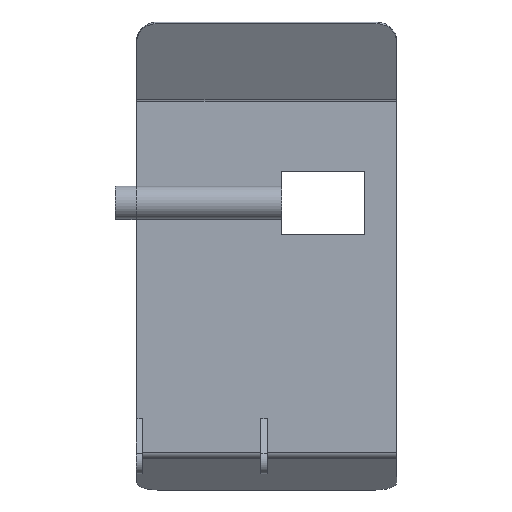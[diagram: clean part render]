
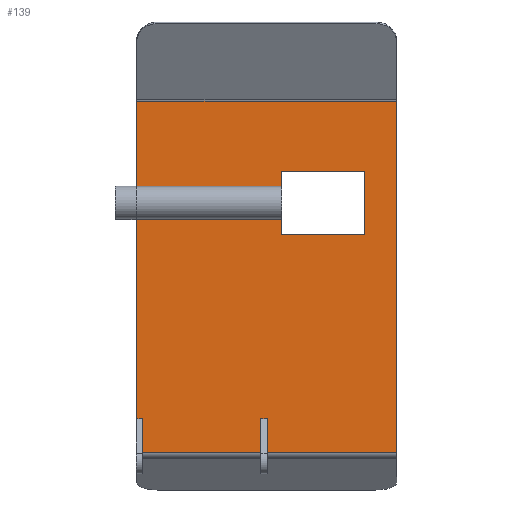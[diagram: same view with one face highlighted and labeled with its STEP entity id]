
A CAD part, top view. The second image highlights one B-rep face of the part: STEP entity #139.
In plain terms, the highlighted planar face has unit normal (0, 0, 1).
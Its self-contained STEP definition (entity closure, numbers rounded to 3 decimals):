
#139 = ADVANCED_FACE( '', ( #288, #289 ), #290, .F. );
#288 = FACE_BOUND( '', #447, .T. );
#289 = FACE_OUTER_BOUND( '', #448, .T. );
#290 = PLANE( '', #449 );
#447 = EDGE_LOOP( '', ( #777, #778, #779, #780 ) );
#448 = EDGE_LOOP( '', ( #781, #782, #783, #784, #785, #786, #787, #788, #789, #790 ) );
#449 = AXIS2_PLACEMENT_3D( '', #791, #792, #793 );
#777 = ORIENTED_EDGE( '', *, *, #1023, .F. );
#778 = ORIENTED_EDGE( '', *, *, #1024, .F. );
#779 = ORIENTED_EDGE( '', *, *, #1000, .F. );
#780 = ORIENTED_EDGE( '', *, *, #976, .F. );
#781 = ORIENTED_EDGE( '', *, *, #972, .F. );
#782 = ORIENTED_EDGE( '', *, *, #1025, .T. );
#783 = ORIENTED_EDGE( '', *, *, #937, .F. );
#784 = ORIENTED_EDGE( '', *, *, #963, .T. );
#785 = ORIENTED_EDGE( '', *, *, #932, .F. );
#786 = ORIENTED_EDGE( '', *, *, #912, .F. );
#787 = ORIENTED_EDGE( '', *, *, #1026, .F. );
#788 = ORIENTED_EDGE( '', *, *, #983, .T. );
#789 = ORIENTED_EDGE( '', *, *, #987, .T. );
#790 = ORIENTED_EDGE( '', *, *, #1006, .T. );
#791 = CARTESIAN_POINT( '', ( 0.296, 0., 0. ) );
#792 = DIRECTION( '', ( 0., 0., -1. ) );
#793 = DIRECTION( '', ( 1., 0., 0. ) );
#912 = EDGE_CURVE( '', #1084, #1086, #1087, .T. );
#932 = EDGE_CURVE( '', #1086, #1117, #1121, .T. );
#937 = EDGE_CURVE( '', #1128, #1123, #1130, .T. );
#963 = EDGE_CURVE( '', #1128, #1117, #1169, .T. );
#972 = EDGE_CURVE( '', #1180, #1182, #1183, .T. );
#976 = EDGE_CURVE( '', #1186, #1189, #1190, .T. );
#983 = EDGE_CURVE( '', #1200, #1198, #1201, .T. );
#987 = EDGE_CURVE( '', #1198, #1205, #1206, .T. );
#1000 = EDGE_CURVE( '', #1189, #1222, #1223, .T. );
#1006 = EDGE_CURVE( '', #1205, #1182, #1231, .T. );
#1023 = EDGE_CURVE( '', #1252, #1186, #1253, .T. );
#1024 = EDGE_CURVE( '', #1222, #1252, #1254, .T. );
#1025 = EDGE_CURVE( '', #1180, #1123, #1255, .T. );
#1026 = EDGE_CURVE( '', #1200, #1084, #1256, .T. );
#1084 = VERTEX_POINT( '', #1325 );
#1086 = VERTEX_POINT( '', #1327 );
#1087 = LINE( '', #1328, #1329 );
#1117 = VERTEX_POINT( '', #1368 );
#1121 = LINE( '', #1374, #1375 );
#1123 = VERTEX_POINT( '', #1377 );
#1128 = VERTEX_POINT( '', #1383 );
#1130 = LINE( '', #1385, #1386 );
#1169 = LINE( '', #1439, #1440 );
#1180 = VERTEX_POINT( '', #1456 );
#1182 = VERTEX_POINT( '', #1459 );
#1183 = LINE( '', #1460, #1461 );
#1186 = VERTEX_POINT( '', #1465 );
#1189 = VERTEX_POINT( '', #1469 );
#1190 = LINE( '', #1470, #1471 );
#1198 = VERTEX_POINT( '', #1482 );
#1200 = VERTEX_POINT( '', #1484 );
#1201 = LINE( '', #1485, #1486 );
#1205 = VERTEX_POINT( '', #1491 );
#1206 = LINE( '', #1492, #1493 );
#1222 = VERTEX_POINT( '', #1511 );
#1223 = LINE( '', #1512, #1513 );
#1231 = LINE( '', #1524, #1525 );
#1252 = VERTEX_POINT( '', #1552 );
#1253 = LINE( '', #1553, #1554 );
#1254 = LINE( '', #1555, #1556 );
#1255 = LINE( '', #1557, #1558 );
#1256 = LINE( '', #1559, #1560 );
#1325 = CARTESIAN_POINT( '', ( 63., 2.647, 0. ) );
#1327 = CARTESIAN_POINT( '', ( 63., 18.922, 0. ) );
#1328 = CARTESIAN_POINT( '', ( 63., 2.647, 0. ) );
#1329 = VECTOR( '', #1615, 1000. );
#1368 = CARTESIAN_POINT( '', ( 60., 18.922, 0. ) );
#1374 = CARTESIAN_POINT( '', ( 63., 18.922, 0. ) );
#1375 = VECTOR( '', #1639, 1000. );
#1377 = CARTESIAN_POINT( '', ( 3., 2.647, 0. ) );
#1383 = CARTESIAN_POINT( '', ( 60., 2.647, 0. ) );
#1385 = CARTESIAN_POINT( '', ( 125.296, 2.647, 0. ) );
#1386 = VECTOR( '', #1647, 1000. );
#1439 = CARTESIAN_POINT( '', ( 60., 2.647, 0. ) );
#1440 = VECTOR( '', #1680, 1000. );
#1456 = CARTESIAN_POINT( '', ( 3., 18.922, 0. ) );
#1459 = CARTESIAN_POINT( '', ( 0.296, 18.922, 0. ) );
#1460 = CARTESIAN_POINT( '', ( 3., 18.922, 0. ) );
#1461 = VECTOR( '', #1687, 1000. );
#1465 = CARTESIAN_POINT( '', ( 110., 137.647, 0. ) );
#1469 = CARTESIAN_POINT( '', ( 70., 137.647, 0. ) );
#1470 = CARTESIAN_POINT( '', ( 0.296, 137.647, 0. ) );
#1471 = VECTOR( '', #1690, 1000. );
#1482 = CARTESIAN_POINT( '', ( 125.296, 171.598, 0. ) );
#1484 = CARTESIAN_POINT( '', ( 125.296, 2.647, 0. ) );
#1485 = CARTESIAN_POINT( '', ( 125.296, 0., 0. ) );
#1486 = VECTOR( '', #1700, 1000. );
#1491 = CARTESIAN_POINT( '', ( 0.296, 171.598, 0. ) );
#1492 = CARTESIAN_POINT( '', ( 125.296, 171.598, 0. ) );
#1493 = VECTOR( '', #1705, 1000. );
#1511 = CARTESIAN_POINT( '', ( 70., 107.647, 0. ) );
#1512 = CARTESIAN_POINT( '', ( 70., 0., 0. ) );
#1513 = VECTOR( '', #1723, 1000. );
#1524 = CARTESIAN_POINT( '', ( 0.296, 175., 0. ) );
#1525 = VECTOR( '', #1730, 1000. );
#1552 = CARTESIAN_POINT( '', ( 110., 107.647, 0. ) );
#1553 = CARTESIAN_POINT( '', ( 110., 0., 0. ) );
#1554 = VECTOR( '', #1749, 1000. );
#1555 = CARTESIAN_POINT( '', ( 0.296, 107.647, 0. ) );
#1556 = VECTOR( '', #1750, 1000. );
#1557 = CARTESIAN_POINT( '', ( 3., 18.922, 0. ) );
#1558 = VECTOR( '', #1751, 1000. );
#1559 = CARTESIAN_POINT( '', ( 125.296, 2.647, 0. ) );
#1560 = VECTOR( '', #1752, 1000. );
#1615 = DIRECTION( '', ( 0., 1., 0. ) );
#1639 = DIRECTION( '', ( -1., 0., 0. ) );
#1647 = DIRECTION( '', ( -1., 0., 0. ) );
#1680 = DIRECTION( '', ( 0., 1., 0. ) );
#1687 = DIRECTION( '', ( -1., 0., 0. ) );
#1690 = DIRECTION( '', ( -1., 0., 0. ) );
#1700 = DIRECTION( '', ( 0., 1., 0. ) );
#1705 = DIRECTION( '', ( -1., 0., 0. ) );
#1723 = DIRECTION( '', ( 0., -1., 0. ) );
#1730 = DIRECTION( '', ( 0., -1., 0. ) );
#1749 = DIRECTION( '', ( 0., 1., 0. ) );
#1750 = DIRECTION( '', ( 1., 0., 0. ) );
#1751 = DIRECTION( '', ( 0., -1., 0. ) );
#1752 = DIRECTION( '', ( -1., 0., 0. ) );
